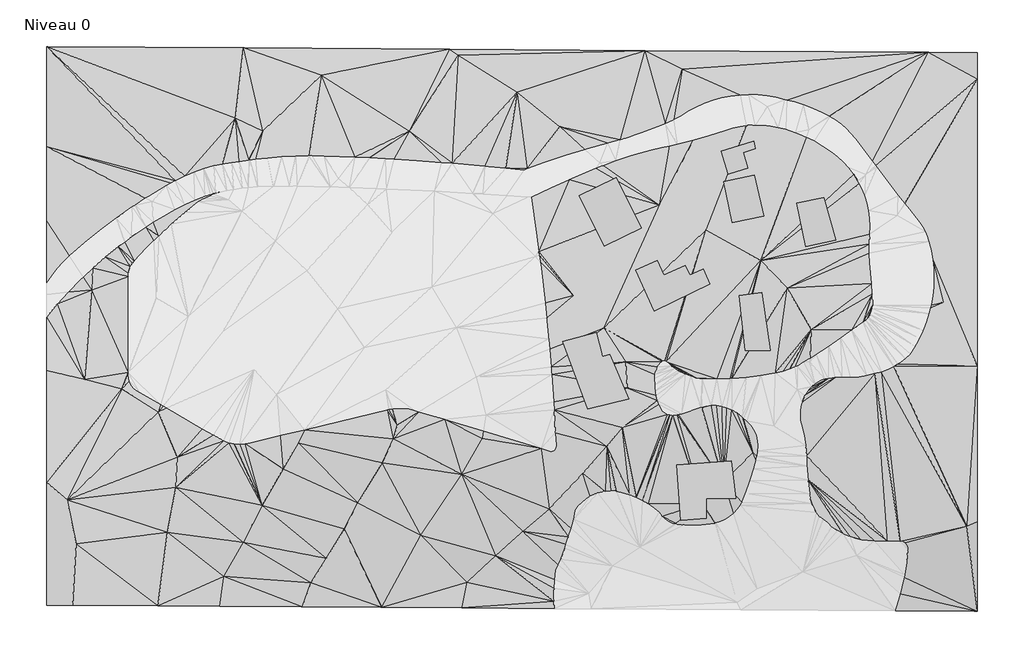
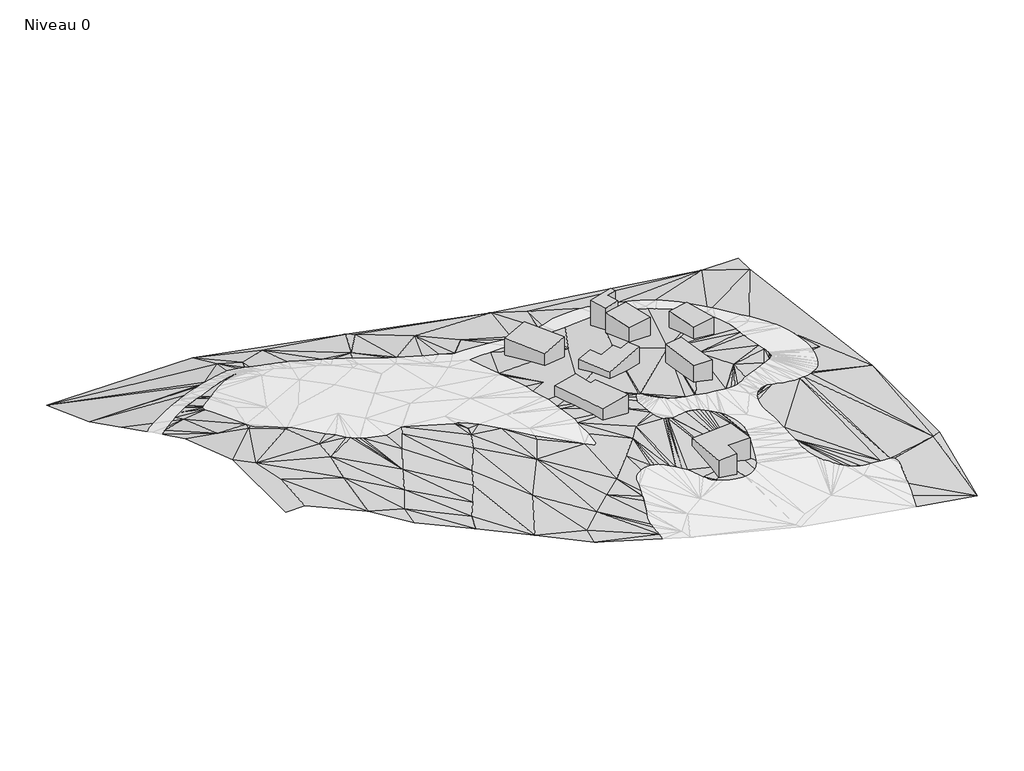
# One storey, part 2 of 2: 1 geographic element, 1 proxy.
"""IFC4 building model written with IfcOpenShell, lengths in millimetres."""

from ifc_helpers import new_model, si_unit, origin, place, context, project, spatial, triangles, transform, mapped, element, save
from components import geographic_element_8d537427

model = new_model("IFC4")

# Units and contexts
model_context = context("Model", 3, world=origin())
ifc_project = project(units=[si_unit("LENGTHUNIT", "METRE", prefix="MILLI")], contexts=[model_context])

# Site, building, storey
site = spatial("IfcSite", under=ifc_project)
building = spatial("IfcBuilding", under=site)
storey = spatial("IfcBuildingStorey", under=building, Name="Niveau 0", Elevation=260000.0)

# Proxy
placement = place(None, origin())
element("IfcBuildingElementProxy", 1, Name="Building Element Proxy", at=placement, inside=storey, context=model_context, shape_type="Tessellation", body=[
    triangles([(84495.4471436, -41924.2828491, 220000.0040039), (84495.4471436, -29941.2259094, 224999.9964844), (84495.4471436, -8994.7974792, 224999.9964844), (84495.4471436, 29442.6679688, 220000.0040039), (84495.4471436, 32966.7877441, 220000.0040039), (77888.3295044, 33010.9571411, 220000.0040039), (39956.0867065, 33264.5370117, 224999.9964844), (13748.1364105, 33439.7379456, 230000.0075684), (-13832.1801178, 33624.112738, 235000.0000488), (-40211.2804321, 33800.4577881, 235000.0000488), (-40211.2804321, 20362.7431274, 239999.9925293), (-40211.2804321, 10433.2166565, 245000.0036133), (-40211.2804321, 2064.1129623, 249239.3913574), (-39535.2379761, 3062.1017555, 248768.9084473), (-38792.4856384, 4011.4859573, 248326.4982422), (-37986.5022766, 4907.8138046, 247914.2257324), (-37144.4769287, 5724.1872299, 247544.3506348), (-37121.0690552, 5746.8823563, 247535.4023438), (-35108.6197998, 7504.0919586, 246860.8016602), (-33034.5812805, 9188.1664902, 246226.9240723), (-30901.6138, 10796.9502686, 245634.5695313), (-28712.4474243, 12328.382373, 245084.5379883), (-28338.5283875, 12570.5036407, 245000.0036133), (-26969.7026367, 13456.8541901, 244677.7535156), (-26469.8843079, 13780.5007141, 244547.2126465), (-24176.7963684, 15151.4461029, 244008.1199707), (-23564.2523621, 15483.7351227, 243881.9509277), (-22961.0054626, 15810.9791016, 243753.4378418), (-21715.0838379, 16411.6540649, 243526.4005371), (-20441.8801575, 16952.0966583, 243331.8263672), (-19144.300058, 17431.0743988, 243170.1804199), (-17825.3131256, 17847.4908417, 243041.8347656), (-16698.2598267, 18039.5058655, 243015.7526367), (-15425.8653992, 18256.2810059, 242660.6859375), (-14416.3642273, 18398.1572296, 242391.9767578), (-13153.5889801, 18575.6289551, 242110.5241699), (-13015.5311279, 18595.0312592, 242057.2250977), (-12201.9028839, 18685.3083069, 241752.220459), (-10596.3566986, 18863.4555725, 241322.1443848), (-8701.4345718, 19016.6787781, 240838.0064941), (-6802.7196533, 19112.0090057, 240376.8439453), (-5166.5776611, 19144.1593689, 239999.9925293), (-5000.266301, 19147.4266113, 239960.367041), (-4901.9804398, 19149.3578888, 239933.3547363), (-4674.7033241, 19146.8871094, 239873.7676758), (-3000.9862999, 19128.6917084, 239415.097998), (1096.9946686, 18990.2222534, 238327.2574219), (3084.390802, 18892.6247223, 237811.1214844), (5192.3789932, 18789.1042969, 237207.2327637), (6273.2542969, 18719.4422699, 236903.1955078), (9284.2088837, 18525.386673, 236002.0412109), (12679.9027771, 18263.0805908, 235000.0000488), (14116.079068, 18152.1408508, 234665.583252), (18521.9147919, 17766.6794952, 233651.3381836), (18943.9029877, 17729.7608185, 233568.2734863), (21308.3691284, 17498.636554, 233109.436377), (23767.1795105, 17258.2907593, 232561.6186523), (24182.2913818, 17411.5965179, 232422.5945801), (26582.8192749, 18298.1412415, 231647.2930664), (29426.9177673, 19257.4291992, 230751.7570313), (31876.1938477, 20006.6137024, 230000.0075684), (32297.1658264, 20135.3802612, 229875.9221191), (34949.6690369, 20864.8473633, 229113.9593262), (35191.2380127, 20931.2805176, 229062.3717773), (36655.5277039, 21343.0832886, 228747.1538086), (37374.4233582, 21545.2569946, 228573.0062988), (39531.3033325, 22246.0700317, 228027.4954102), (41658.4246582, 23032.5964417, 227466.1901367), (42704.3933716, 23470.9464294, 227177.5565918), (43729.4191772, 23956.2633179, 226881.0909668), (43828.9479858, 24009.0368408, 226850.9160645), (44731.3905762, 24487.547168, 226627.0599609), (45758.7883301, 25133.728656, 226346.3701172), (46830.8810303, 25702.6985779, 226080.3026367), (47941.8690308, 26191.3827026, 225830.3085938), (49085.7480469, 26597.1439819, 225597.7274414), (50256.3417114, 26917.7872009, 225383.8056152), (51447.3248291, 27151.5822327, 225189.7337402), (52652.2652344, 27297.2663635, 225016.5536133), (52784.7687744, 27303.470636, 224999.9964844), (53864.6516968, 27354.0489441, 224842.8339844), (55077.9357788, 27321.6253418, 224692.7408203), (56285.5550903, 27200.17229, 224569.8645996), (57480.99375, 26990.3432373, 224474.8378418), (58657.7963379, 26693.2753235, 224408.1814453), (58954.4433472, 26620.8704407, 224390.6383301), (59925.3794312, 26383.8942078, 224313.2291016), (61171.8800903, 25998.2456543, 224235.1501465), (62392.7125488, 25537.7458557, 224180.3441895), (63583.3887085, 25004.0900574, 224148.9972656), (64641.2729736, 24450.6401184, 224141.9093262), (64739.5227905, 24399.2409302, 224136.1236328), (65500.429834, 23919.9073975, 224108.925293), (66221.5672119, 23382.6006592, 224101.167627), (66898.5351929, 22790.6065613, 224112.9064453), (67527.1851929, 22147.5388367, 224144.0487305), (68103.6848877, 21457.3298035, 224194.4084473), (70419.7249146, 18418.7664368, 224454.4111816), (70883.822168, 17809.8896484, 224540.0803711), (71008.7819824, 17645.9438416, 224540.6012695), (73871.7700195, 13802.8249329, 224565.8648437), (74738.0008667, 12759.4909424, 224554.8887695), (75354.0562866, 12017.4850708, 224499.4875), (76762.8772705, 10173.6231995, 224391.7731445), (77152.7185913, 9587.9682495, 224371.7185547), (77488.4748413, 8969.7129639, 224369.169873), (77767.4299072, 8323.8390152, 224384.1643066), (77987.3420654, 7655.5513184, 224416.5530273), (78277.4731934, 6464.7873734, 224499.2456543), (78485.9813965, 5257.0564407, 224604.2066895), (78611.9178955, 4037.9445168, 224730.9152344), (78654.6966797, 2813.0919548, 224878.7945801), (78625.4798584, 1931.3460663, 224999.9964844), (78614.1038086, 1588.1651241, 225049.0539551), (78490.3439209, 368.8305757, 225244.6699219), (78287.4818848, -818.8306881, 225456.2477051), (78283.9844238, -839.2707922, 225456.9918457), (78183.1161621, -1258.285841, 225480.525293), (78002.9085571, -2006.882008, 225612.3125977), (77645.3489868, -3153.3857185, 225832.5410156), (77212.8684082, -4273.7783775, 226066.4802246), (76707.3550781, -5363.1697311, 226313.0884277), (76131.0088623, -6416.804837, 226571.3238281), (75486.3505371, -7430.0854294, 226840.0330078), (74811.884729, -8042.9945297, 227066.6982422), (74083.6408081, -8590.9192245, 227297.5678711), (73799.3000244, -8766.2056183, 227382.9952148), (73307.8509521, -9069.1661957, 227460.1998047), (72491.1752197, -9473.6380188, 227598.6657715), (71640.5945801, -9800.8692078, 227752.5912598), (70763.4062622, -10048.057608, 227920.6182129), (69689.8578369, -10305.1430786, 228130.9495605), (68600.0173828, -10480.7928223, 228353.2429688), (67500.0566162, -10574.0162018, 228586.289209), (66396.203064, -10584.283017, 228828.7302246), (65465.5854492, -10592.8697021, 229033.1270508), (64538.2374023, -10671.2556152, 229229.6173828), (64038.305127, -10766.5009644, 229330.0763672), (63555.3764648, -10927.0853485, 229420.0615723), (63097.9578735, -11150.1845215, 229497.9730957), (62674.0953735, -11431.8696533, 229562.4528809), (62291.2536255, -11767.1840698, 229612.3475098), (62173.1073486, -11902.246756, 229624.4956055), (61825.123938, -12300.0666595, 229691.765918), (61433.6873657, -12889.9980927, 229765.4916504), (61392.5921997, -12974.4266602, 229772.9330566), (61123.845813, -13526.5801666, 229673.7763184), (60995.4955078, -13913.7297913, 229601.0365723), (60901.0547607, -14198.5961243, 229581.2610352), (60769.2395508, -14894.200177, 229510.6979004), (60730.7302734, -15601.1360962, 229417.4756836), (60786.1966553, -16306.9430145, 229303.2500977), (60934.6713135, -16999.1833191, 229170.0117188), (61263.186145, -18331.389212, 228903.9628418), (61495.1998901, -19683.7450378, 228656.7593262), (61629.5079712, -21049.2686646, 228429.6662109), (61665.4174072, -22420.9128479, 228223.8741211), (61837.1929688, -24285.8664551, 227916.3580078), (62010.0893921, -26162.9821106, 227580.2668945), (62113.8132935, -26819.8582947, 227454.042041), (62301.5227661, -27457.8333069, 227314.0691895), (62570.069165, -28066.2147766, 227162.7295898), (62914.9550903, -28634.8103027, 227002.5533203), (63330.3994995, -29154.0925598, 226836.2006836), (63809.4400269, -29615.357428, 226666.4994141), (64344.0492554, -30010.8797974, 226496.2586426), (65008.9296021, -30573.059436, 226273.2396973), (65724.3789551, -31069.2872864, 226050.7230469), (66449.0463501, -31475.5066772, 225840.8381836), (66483.8814331, -31495.0380432, 225830.1783691), (67280.5211792, -31846.4328735, 225600.0156738), (67425.6379028, -31894.5113342, 225560.3901855), (68107.0335205, -32120.2696472, 225477.530127), (68955.8886841, -32314.0554932, 225392.3260254), (69819.3569092, -32426.0254028, 225323.1395508), (70689.5642578, -32455.1538574, 225270.6404297), (72420.3004761, -32456.4840088, 225177.8460938), (74150.2134888, -32509.9040039, 225074.3733398), (74433.9775635, -32561.5357361, 225048.5888672), (74693.9198364, -32686.497876, 225009.0005859), (74732.6709595, -32720.2260498, 224999.9964844), (74911.473999, -32875.8584106, 224913.9366211), (75071.0921631, -33116.0879333, 224793.9811523), (75161.3610718, -33390.02005, 224667.328418), (75175.8346069, -33678.0792114, 224543.0755371), (74993.0876221, -35357.3046204, 223848.2714355), (74728.1503052, -37025.5400024, 223167.2711426), (74661.5264648, -37343.4252502, 223039.2789551), (74381.6691284, -38678.7623474, 222539.7373535), (74149.3809814, -39567.3615967, 222212.9666016), (73954.4672974, -40312.9905029, 222053.3856445), (73470.7665894, -41850.5803711, 221737.0328613), (-40211.2804321, -9605.2009186, 255000.0071777), (-40211.2804321, -24614.4091919, 259999.9996582), (-40211.2804321, -41090.6128052, 259999.9996582), (-36722.425946, -41113.9369629, 259999.9996582), (-25298.3534912, -41190.3043945, 255000.0071777), (-17040.8051971, -41245.5056763, 249999.9960938), (-5941.7338348, -41319.7057983, 245000.0036133), (4723.6878342, -41391.003772, 239999.9925293), (15417.0112885, -41462.4877808, 235000.0000488), (27770.4212036, -41545.0734375, 231440.6638184), (27726.5634155, -40538.2697754, 231639.9074707), (27747.9853638, -39151.1079346, 231890.9619141), (27774.2349243, -38799.0108215, 231948.7072266), (27851.1255798, -37767.6179626, 231839.0953125), (27863.9736328, -37671.8749695, 231826.4449219), (28035.6305969, -36392.6135193, 232174.832959), (28346.8627625, -35688.1914001, 232307.0481445), (28673.784668, -34948.2528442, 232452.5834473), (29220.969873, -33467.0339539, 232772.7499512), (29375.0697693, -32953.8187683, 232893.2263184), (29675.0747131, -31954.6820801, 233077.4383301), (30070.5691772, -30802.1268494, 233273.3519531), (30076.0060547, -30786.2789795, 233276.3657227), (30395.7214233, -29593.0890198, 233532.7779785), (30632.7046326, -28380.7560425, 233821.467334), (31041.3657349, -27806.0353088, 233863.2880371), (31520.6109009, -27288.70177, 233865.2041992), (32062.4638733, -26837.3688538, 233827.1786133), (32585.3784668, -26505.5658508, 233759.2571777), (32657.9112488, -26459.5407532, 233758.4200195), (33297.039679, -26161.5101074, 233715.2598633), (33626.1847046, -26057.076947, 233676.7319824), (33969.2172546, -25948.2347534, 233635.8228516), (34663.2562866, -25823.2633118, 233521.4856445), (35367.6086426, -25788.6747253, 233374.9085449), (36070.5517822, -25845.0480286, 233198.5286133), (36110.0609985, -25852.6103577, 233187.1618652), (36986.7237671, -26020.4256958, 232908.7602539), (37883.6457642, -26276.67052, 232603.2719238), (38754.192627, -26611.7477417, 232285.6727051), (39591.4531494, -27022.9947327, 231958.4554688), (40388.7765747, -27507.1465759, 231624.2433105), (41139.8330566, -28060.3593201, 231285.6965332), (41838.6555176, -28678.2355591, 230945.4754395), (42291.1674316, -29156.5784546, 230706.0481934), (42479.7001099, -29355.8732666, 230597.7571289), (42808.4800415, -29673.0073975, 230418.9401367), (43188.8940308, -29925.8966125, 230249.8341797), (43608.561438, -30106.3111816, 230095.9272949), (43928.0117065, -30179.5346191, 230000.0075684), (44053.8133301, -30208.3700684, 229964.8283203), (44143.7613281, -30217.5090454, 229943.2296387), (44208.4876099, -30224.0830627, 229927.5654785), (45226.1324707, -30327.4627991, 229674.4274414), (46403.8140747, -30367.2208374, 229405.2159668), (47581.4956787, -30327.4627991, 229159.630957), (48753.8148193, -30208.3700684, 228938.788623), (49338.579126, -30092.5771362, 228845.3803711), (49432.1501587, -30074.0480347, 228825.9210938), (50089.3100464, -29858.8262878, 228712.2164062), (50715.6904175, -29565.8511475, 228627.5332031), (51302.1197388, -29199.4083984, 228573.0807129), (51815.4837524, -28784.6872009, 228550.7564941), (51840.0310913, -28764.8581787, 228554.1237305), (52321.5505371, -28268.5512634, 228653.9315918), (52739.6412964, -27717.75, 228778.3519043), (52895.245752, -27334.6478027, 228880.7270508), (53396.9779175, -26099.3859924, 229032.9224121), (53988.6813354, -24455.8886353, 229252.7601563), (54513.7888184, -22789.9182312, 229492.6524902), (54817.5423706, -21671.084198, 229664.9396484), (54951.2969971, -21178.4212463, 229789.8622559), (54971.4539063, -21104.17229, 229797.76875), (55094.3719849, -20423.0092163, 229882.6751953), (55125.9421509, -19731.5653748, 229987.4687988), (55119.7890381, -19661.192926, 230000.0075684), (55065.6202515, -19042.0365326, 230116.4283691), (54914.4573853, -18366.5800873, 230262.8194336), (54675.1231567, -17717.1104279, 230423.4049805), (54179.3348145, -17026.9618561, 230644.8984375), (53612.4252319, -16393.9365417, 230871.6938965), (53218.2167358, -16038.9907654, 231014.9595703), (52980.9242432, -15825.3293884, 231073.1699707), (52292.1058228, -15327.6923218, 231243.9130371), (51553.9136719, -14906.7622009, 231428.4971191), (50903.3022217, -14632.1766357, 231592.5243164), (50222.5251709, -14444.4822784, 231765.5556152), (49523.1213501, -14346.8614929, 231944.6888672), (48816.969104, -14340.9711548, 232126.8358887), (48116.035144, -14426.9112579, 232308.9457031), (47542.5631714, -14574.7720001, 232459.0202637), (47432.2164185, -14603.2237518, 232477.4377441), (44860.2617798, -15448.4407654, 232875.9436523), (44476.5782227, -15539.452652, 232941.3536133), (44264.9585815, -15589.6507507, 232998.5966309), (43655.0237183, -15637.6350311, 233167.0700684), (43298.575708, -15601.9941833, 233267.826709), (42956.5175171, -15495.5832367, 233367.1136719), (42642.7552734, -15322.7263458, 233460.8753906), (42370.041687, -15090.449826, 233545.3353516), (42149.4598022, -14808.1949615, 233617.0333008), (41840.9530518, -14245.3455963, 233723.3709961), (41813.6849487, -14176.962561, 233733.435498), (41603.2233765, -13649.1401276, 233867.3063965), (41439.8100952, -13028.4384796, 234007.0001953), (41435.8428955, -12999.3460693, 234012.7672852), (41353.1363159, -12392.4645081, 234025.5479004), (41294.6236084, -11544.4674316, 234028.6918945), (41245.5475342, -10695.8715546, 234029.3802246), (41259.6908569, -10250.252243, 234019.4459473), (41271.6110596, -10191.3093292, 234015.539209), (41348.0808105, -9813.2579865, 234048.1883789), (41508.2384766, -9397.1735001, 234069.117334), (41633.4215332, -9179.7431671, 234071.8520508), (41763.3484863, -8954.0755463, 234038.0866699), (42078.6176147, -8551.5553482, 233959.4124023), (42237.0312012, -8426.4949585, 233921.5914551), (42427.7032837, -8360.3042313, 233877.9848145), (42629.5328247, -8360.3042313, 233833.373584), (42820.2002563, -8426.4949585, 233792.7249023), (42978.6184937, -8551.5553482, 233760.5222168), (43446.8736328, -9004.4544479, 233667.2069824), (43971.1346558, -9391.145961, 233560.0321289), (44344.9304443, -9608.1164383, 233482.2880371), (44650.7396851, -9785.6213013, 233399.4837891), (45361.7102417, -10120.2811066, 233216.8158691), (46098.7908325, -10392.6551788, 233036.845459), (46856.5399292, -10600.7296875, 232860.9306152), (47629.3532227, -10742.9675171, 232690.3549805), (49593.3821777, -10774.3865295, 232298.5463379), (51379.8684814, -10719.5201111, 231952.6883789), (51556.7367554, -10714.0878845, 231913.472168), (53515.138147, -10562.2006439, 231477.3313477), (55464.3121948, -10319.0573456, 231041.1533203), (57400.0126465, -9985.1881897, 230605.9426758), (58400.9422485, -9743.1674973, 230379.333252), (59377.3245117, -9415.8874741, 230156.2584961), (60054.6227051, -9121.8257721, 230000.0075684), (60321.9133667, -9005.7764603, 230000.0075684), (61227.6906372, -8515.8790375, 230000.0075684), (61920.8808838, -8087.4871628, 230000.0075684), (62076.0295532, -7991.6063873, 230000.0075684), (62901.14198, -7481.6851868, 229770.5704102), (64543.5533569, -6398.8733734, 229314.7470703), (66153.5109009, -5268.3743546, 228868.7835938), (67662.0932373, -4197.3969933, 228451.0602539), (69190.753418, -3155.2765915, 228027.2349609), (69548.1874146, -2872.4075203, 227928.6363281), (69831.193396, -2562.5249817, 227851.6549805), (69855.5779541, -2535.8280647, 227841.8323242), (70104.9487793, -2154.2680698, 227726.7881836), (70289.8351685, -1737.6248966, 227623.5014648), (70405.4420654, -1296.7052982, 227534.6696777), (70448.7650024, -842.9459312, 227462.5624512), (70433.5891846, 597.6422633, 227272.6949707), (70346.1154541, 2035.6521996, 227101.654248), (70186.5624023, 3467.4575363, 226949.8495605), (70047.6685547, 4747.1925041, 226813.2253418), (69980.5749756, 6032.6928177, 226657.476709), (69980.8307739, 6099.7363998, 226648.3981934), (69985.4909546, 7319.9328506, 226472.4275391), (70062.3932373, 8604.8834885, 226269.5748047), (70066.2581177, 8691.8217865, 226256.1616699), (70109.7903442, 9671.3125809, 226075.9680176), (70064.6675171, 10737.8399231, 225900.4438477), (69927.36427, 11796.4543762, 225746.9462402), (69698.917749, 12839.2046814, 225616.5728027), (69381.0394775, 13858.2587585, 225510.365332), (68976.1153564, 14845.9600983, 225429.0679687), (68674.5105103, 15431.3301819, 225394.6886719), (68488.0335205, 15793.2476257, 225362.7650391), (68487.1870605, 15794.889386, 225362.5604004), (67917.9334351, 16697.9214752, 225263.254834), (67272.6239868, 17548.2707336, 225188.859375), (66556.1095825, 18339.5503418, 225139.9693359), (65773.7712891, 19065.8176392, 225116.9195801), (64931.4878174, 19721.6148193, 225119.8961426), (63792.957312, 20476.2292236, 225152.9731934), (62607.2994507, 21154.3878296, 225211.1649902), (61533.1603638, 21678.2791077, 225283.7931152), (61379.639502, 21753.1582581, 225286.1371582), (61077.5323608, 21876.6414185, 225296.3876953), (60115.2794678, 22269.9546204, 225328.3299316), (58819.6887817, 22702.5398438, 225394.3352051), (57811.0852295, 22960.9519775, 225464.3030273), (56785.5803833, 23140.8968079, 225555.0509766), (55749.2529419, 23241.3092834, 225666.0767578), (55091.0838135, 23254.134082, 225748.6577637), (54708.2746216, 23261.5917664, 225796.040918), (53668.8264404, 23201.6210083, 225943.752832), (53535.2206421, 23183.5104858, 225965.2026855), (52637.0894165, 23061.7574524, 226097.6597168), (51619.1887573, 22842.8289551, 226268.4027832), (50621.1799072, 22546.1377625, 226456.7075684), (48526.2008057, 21870.2441345, 226865.5384277), (46411.3578003, 21259.3349121, 227260.0445801), (44278.6647217, 20713.9914551, 227639.8539551), (43225.8731689, 20479.1499756, 227818.5965332), (42130.1586548, 20234.7346619, 228068.441748), (40698.8088135, 19912.0101746, 228395.6403809), (39279.793103, 19538.7608643, 228733.0709473), (37874.9021118, 19115.455307, 229080.2683594), (36042.1953735, 18498.1476379, 229549.1327637), (34333.1438782, 17866.6919952, 230000.0075684), (34228.1781921, 17827.9094788, 230030.3685059), (33387.2644043, 17489.1627136, 230281.199707), (32434.3760559, 17105.3082367, 230598.2222168), (29831.8674683, 15984.344101, 231481.1636719), (27250.543634, 14815.4247528, 232370.3559082), (24691.2858948, 13598.9524933, 233265.482666), (25399.9542664, 8869.1964249, 234210.8203125), (25736.375592, 6346.462619, 234724.9284668), (25798.7996887, 5878.3580521, 234838.5773438), (25917.9040466, 4985.2352417, 235000.0000488), (26032.1389343, 4128.6104942, 235181.6819824), (26586.2399963, -609.3132079, 236206.1775879), (26587.672467, -621.5677288, 236207.1821777), (26785.7417725, -2590.3197968, 236377.9996582), (27066.4106873, -5380.0989304, 236879.2713867), (27179.2642639, -6718.5683945, 237124.4471191), (27383.2983215, -9138.4712677, 237234.2450684), (27468.2280212, -10145.7423431, 237309.3474609), (27721.8730042, -13872.0334991, 237602.0737793), (27793.0198242, -14917.253421, 237479.718457), (27954.1913818, -18025.1730194, 237130.214209), (28040.7023804, -19693.3886353, 236732.4152344), (28030.7750793, -19983.1197876, 236669.5539551), (27959.0282959, -20171.5966553, 236644.9787109), (27829.6129395, -20326.2686096, 236642.4486328), (27656.7467468, -20430.1366882, 236662.2241699), (27459.4239075, -20471.7899597, 236702.1287109), (27259.3244934, -20446.6542847, 236757.8090332), (26068.0716248, -20089.262146, 237136.0743164), (18319.1585632, -17764.4854431, 239999.9925293), (13152.6576416, -16214.4661011, 242319.8881348), (9679.1074539, -15172.354129, 243634.1334961), (9060.691713, -14986.8212677, 243853.0224609), (8352.9477036, -14816.116571, 244109.0068359), (7631.1876892, -14720.7084412, 244380.3577148), (6903.3978104, -14701.6503021, 244664.0985352), (6177.6328079, -14759.1537689, 244957.0666992), (6074.8745453, -14778.3119019, 245000.0036133), (5638.3721191, -14859.6894928, 245000.0036133), (5461.9253311, -14892.5839966, 245077.7291016), (-5621.094104, -17568.8473846, 249999.9960938), (-7118.5149124, -17930.4369415, 249999.9960938), (-8883.8705292, -18356.7248749, 249999.9960938), (-12904.7332397, -19327.6586334, 251458.8837891), (-13623.5033203, -19471.6324036, 251718.7935059), (-14355.0528534, -19518.471405, 251980.4147461), (-15086.3151947, -19467.3349915, 252239.0594238), (-15804.2260254, -19319.1417114, 252490.0952637), (-16495.964035, -19076.5355896, 252729.0574219), (-17908.9545319, -18260.3993591, 253207.7444824), (-19336.6929657, -17435.7450439, 253368.2742188), (-24122.5485168, -14671.4591217, 254571.5310059), (-24608.6421021, -14390.6948639, 254643.8428711), (-24924.5367737, -14208.2350708, 254628.1042969), (-27753.1013306, -12574.4696777, 254666.5391602), (-28181.9658508, -12331.8309998, 254674.036377), (-28556.6522827, -12011.8191376, 254645.1637207), (-28863.3916992, -11626.1926758, 254581.0001953), (-29090.9173462, -11189.1228424, 254483.9084473), (-29132.0566956, -11050.2324829, 254446.7200195), (-29230.8646179, -10716.6691223, 254353.6466309), (-29278.0919678, -10226.1920837, 254197.823584), (-29278.0919678, -9903.4478302, 254089.2720703), (-29278.0919678, 563.91111, 249999.9960938), (-29278.0919678, 2973.8074356, 249060.1836914), (-29246.5125, 3426.6489807, 248882.0364258), (-29148.304541, 3869.8393707, 248704.4100586), (-28985.6260986, 4293.6303635, 248531.1741211), (-28762.0560242, 4688.6989815, 248366.179541), (-28482.5149475, 5046.3559296, 248213.0167969), (-26876.6083191, 6752.2855225, 247469.1924316), (-25840.9529297, 7777.7717651, 247018.6152832), (-25211.7797058, 8400.7651337, 246808.5257813), (-23490.0871216, 9989.7600037, 246278.3441895), (-21713.6513672, 11517.309787, 245774.5237793), (-19884.665332, 12981.5308777, 245297.6784668), (-19182.0291504, 13406.0165955, 245167.7515137), (-18446.6565948, 13770.8664185, 245062.4184082), (-17881.3899353, 13995.1097076, 245003.1476074), (-17869.5360077, 13999.8117462, 245000.0036133), (-17867.1733612, 14000.7488983, 245000.0036133), (-17683.6008453, 14073.5735229, 244936.9749023), (-17040.735434, 14268.7546326, 244744.4285156), (-17543.9802979, 14153.784906, 244877.3878418), (-17823.4399841, 14071.3527283, 244959.9502441), (-17860.0191467, 14060.5638519, 244972.1355469), (-18181.3518585, 13965.7801025, 245000.0036133), (-18969.0270355, 13733.4419586, 245051.6655762), (-20365.1732117, 13225.2857666, 245180.4205078), (-21727.0133423, 12631.2848145, 245343.9640137), (-23049.2744934, 11953.7389618, 245541.6449707), (-25001.0576843, 10825.8461792, 245882.7776367), (-25943.0862305, 10231.704538, 246066.6175781), (-26907.7436279, 9623.288768, 246351.0839355), (-28766.47901, 8347.8666183, 246939.3829102), (-29755.0465759, 7611.7034134, 247274.8229004), (-30574.4802795, 7001.4894974, 247498.6045898), (-32329.0382996, 5586.1735611, 248030.3116699), (-34027.5276489, 4104.0375755, 248599.2257813), (-35304.7682922, 2899.3422134, 249070.6388672), (-35667.4066223, 2557.3005913, 249225.1038574), (-37246.2172302, 948.2790367, 249958.3242188), (-37328.5842957, 857.5690212, 249999.9960938), (-38761.5991516, -720.6182962, 250703.953125), (-40211.2804321, -2446.8925049, 251479.9057617), (83084.6495361, -30548.7097595, 224999.9964844), (79898.1370605, -486.7108077, 224999.9964844), (44982.4682739, 30760.7782104, 224999.9964844), (44050.1437866, -30096.8001343, 230000.0075684), (47644.1988281, -27452.8429138, 230000.0075684), (50523.2323975, -24662.6318298, 230000.0075684), (54364.9095337, -20598.8938293, 230000.0075684), (62247.0563232, -4126.3821419, 230000.0075684), (58984.5949951, 1427.5678047, 230000.0075684), (55489.1013794, 5078.4161819, 230000.0075684), (48074.7725464, 9172.0267776, 230000.0075684), (41866.3887085, 12521.8740509, 230000.0075684), (28511.6643311, 23062.7271606, 230000.0075684), (22835.3712708, 27651.5331116, 230000.0075684), (14951.0932159, 32622.9017578, 230000.0075684), (16089.0842194, -38040.161792, 235000.0000488), (19951.0356995, -34446.8694946, 235000.0000488), (23594.7016663, -31206.1882324, 235000.0000488), (27159.2585083, -28166.7411987, 235000.0000488), (31593.7855042, -23438.5391052, 235000.0000488), (34853.6028076, -19826.308429, 235000.0000488), (36879.974469, -17241.9487335, 235000.0000488), (37555.7215942, -11998.3420532, 235000.0000488), (37364.7472046, -8505.3628189, 235000.0000488), (34430.6216492, -3919.7005714, 235000.0000488), (30370.2160034, 421.6148901, 235000.0000488), (9949.8880188, -31722.6660095, 239999.9925293), (15398.9728546, -23549.0370117, 239999.9925293), (18168.1794067, -18725.2570312, 239999.9925293), (-11242.8114258, 22428.4007629, 239999.9925293), (-14907.413324, 24173.0268311, 239999.9925293), (-4793.3896843, -38067.6345337, 245000.0036133), (-2733.2439217, -34825.437085, 245000.0036133), (-335.3695004, -30874.0108337, 245000.0036133), (1488.3659832, -27395.4045593, 245000.0036133), (4730.5624146, -22025.5160522, 245000.0036133), (6250.3417419, -18817.0932861, 245000.0036133), (6790.7081772, -16925.8110535, 245000.0036133), (-17876.5681366, 14003.8835907, 245000.0036133), (-16477.5709717, -37247.6357483, 249999.9960938), (-13857.9901703, -32676.2101318, 249999.9960938), (-11341.1379822, -27745.2343689, 249999.9960938), (-8516.1005356, -22814.258606, 249999.9960938), (-6512.8914139, -19321.4845917, 249999.9960938), (-34184.573877, 1179.3004732, 249999.9960938), (-24017.1316956, -31316.0954773, 255000.0071777), (-22890.8050964, -25296.0815369, 255000.0071777), (-22696.6122986, -21295.6838562, 255000.0071777), (-25221.1349487, -15159.1514465, 255000.0071777), (-30114.8246155, -12129.7235687, 255000.0071777), (-35125.030426, -10848.0424988, 255000.0071777), (-36247.8758423, -32901.7847351, 259999.9996582), (-37470.6035339, -26991.9338379, 259999.9996582), (8378.1641876, 22462.2173035, 235000.0000488), (-3435.6309906, 29963.978009, 235000.0000488)], [[196, 197, 553], [195, 553, 194], [553, 195, 196], [197, 547, 553], [541, 547, 197], [542, 541, 533], [547, 542, 548], [542, 547, 541], [541, 198, 199], [541, 197, 198], [553, 547, 554], [554, 548, 549], [548, 554, 547], [549, 550, 554], [554, 551, 194], [548, 445, 549], [554, 194, 553], [442, 443, 543], [444, 445, 548], [543, 443, 444], [548, 543, 444], [442, 543, 441], [446, 549, 445], [542, 543, 548], [199, 200, 533], [534, 543, 542], [534, 533, 200], [534, 200, 535], [534, 542, 533], [517, 528, 200], [518, 517, 203], [528, 518, 529], [518, 528, 517], [518, 208, 519], [517, 200, 201], [535, 200, 528], [544, 440, 441], [545, 544, 536], [544, 439, 440], [544, 543, 535], [544, 441, 543], [537, 528, 529], [529, 518, 519], [528, 537, 536], [536, 535, 528], [545, 537, 437], [536, 537, 545], [529, 425, 530], [535, 536, 544], [543, 534, 535], [538, 537, 529], [203, 517, 201], [533, 541, 199], [545, 439, 544], [451, 550, 450], [550, 451, 551], [551, 452, 453], [452, 551, 451], [551, 552, 194], [448, 550, 549], [449, 450, 550], [448, 449, 550], [549, 447, 448], [551, 459, 552], [551, 458, 459], [459, 546, 552], [552, 501, 193], [193, 194, 552], [455, 551, 454], [457, 458, 551], [551, 456, 457], [456, 551, 455], [551, 453, 454], [554, 550, 551], [438, 545, 437], [545, 438, 439], [529, 427, 538], [427, 529, 530], [539, 538, 428], [427, 530, 426], [436, 538, 539], [426, 530, 425], [437, 538, 436], [437, 537, 538], [538, 427, 428], [436, 539, 435], [434, 539, 433], [539, 434, 435], [431, 539, 430], [433, 539, 432], [431, 432, 539], [539, 429, 430], [428, 429, 539], [446, 447, 549], [520, 529, 519], [204, 518, 203], [205, 206, 518], [205, 518, 204], [207, 208, 518], [210, 519, 209], [208, 209, 519], [206, 207, 518], [212, 519, 211], [519, 213, 520], [519, 212, 213], [519, 210, 211], [520, 214, 215], [217, 520, 216], [520, 215, 216], [214, 520, 213], [520, 217, 218], [529, 520, 425], [520, 218, 521], [521, 219, 220], [521, 218, 219], [506, 234, 235], [289, 232, 233], [290, 523, 232], [233, 234, 288], [521, 221, 222], [224, 225, 521], [223, 224, 521], [230, 231, 522], [522, 228, 229], [229, 230, 522], [225, 226, 521], [232, 523, 231], [521, 220, 221], [521, 222, 223], [424, 520, 423], [423, 521, 422], [425, 520, 424], [420, 521, 419], [520, 521, 423], [420, 421, 521], [226, 522, 521], [521, 421, 422], [227, 522, 226], [524, 415, 416], [525, 413, 414], [414, 415, 524], [419, 522, 418], [522, 419, 521], [418, 522, 417], [522, 523, 416], [522, 416, 417], [227, 228, 522], [416, 523, 524], [523, 522, 231], [298, 299, 524], [524, 300, 301], [300, 524, 299], [298, 524, 297], [295, 523, 294], [296, 297, 524], [524, 523, 296], [523, 295, 296], [523, 293, 294], [302, 525, 524], [525, 303, 304], [303, 525, 302], [302, 524, 301], [304, 305, 525], [307, 308, 525], [306, 307, 525], [305, 306, 525], [525, 308, 309], [524, 525, 414], [523, 292, 293], [235, 236, 506], [203, 201, 202], [525, 526, 413], [499, 500, 546], [501, 552, 500], [498, 546, 497], [546, 498, 499], [496, 497, 546], [546, 495, 496], [546, 500, 552], [14, 15, 12], [12, 16, 17], [16, 12, 15], [14, 12, 13], [19, 20, 12], [18, 19, 12], [17, 18, 12], [21, 12, 20], [495, 546, 461], [461, 494, 495], [494, 462, 463], [462, 494, 461], [461, 546, 460], [463, 464, 494], [493, 464, 465], [494, 464, 493], [493, 465, 466], [467, 491, 492], [467, 490, 491], [493, 466, 492], [469, 490, 468], [488, 489, 469], [489, 490, 469], [488, 469, 470], [468, 490, 467], [466, 467, 492], [460, 546, 459], [22, 23, 11], [21, 22, 11], [487, 471, 486], [487, 488, 470], [485, 486, 471], [471, 472, 485], [470, 471, 487], [24, 25, 11], [28, 10, 11], [11, 25, 26], [24, 11, 23], [26, 27, 11], [10, 29, 532], [28, 29, 10], [27, 28, 11], [30, 532, 29], [21, 11, 12], [473, 484, 485], [484, 474, 483], [474, 484, 473], [482, 483, 475], [475, 483, 474], [540, 476, 477], [476, 540, 475], [540, 477, 482], [482, 475, 540], [482, 477, 481], [532, 30, 31], [480, 478, 479], [532, 32, 33], [480, 481, 478], [477, 478, 481], [532, 31, 32], [485, 472, 473], [532, 33, 34], [515, 55, 56], [58, 56, 57], [405, 406, 527], [403, 404, 400], [405, 527, 404], [401, 402, 403], [35, 36, 532], [37, 38, 531], [36, 37, 531], [515, 54, 55], [53, 555, 52], [555, 51, 52], [53, 54, 515], [58, 515, 56], [409, 410, 527], [407, 408, 527], [409, 527, 408], [413, 526, 412], [526, 527, 410], [526, 411, 412], [513, 527, 526], [526, 410, 411], [404, 527, 513], [526, 512, 513], [399, 400, 513], [403, 400, 401], [398, 513, 397], [513, 398, 399], [513, 396, 397], [396, 513, 395], [513, 394, 395], [513, 400, 404], [58, 59, 514], [513, 390, 391], [407, 527, 406], [39, 40, 531], [40, 41, 531], [49, 50, 555], [47, 48, 555], [49, 555, 48], [46, 47, 556], [9, 531, 556], [532, 36, 531], [532, 9, 10], [9, 532, 531], [531, 42, 556], [531, 41, 42], [45, 556, 44], [45, 46, 556], [556, 555, 8], [44, 556, 43], [47, 555, 556], [43, 556, 42], [9, 556, 8], [51, 555, 50], [531, 38, 39], [60, 61, 514], [62, 63, 514], [61, 62, 514], [394, 513, 393], [393, 513, 392], [513, 391, 392], [514, 59, 60], [63, 64, 514], [515, 514, 7], [555, 53, 516], [7, 8, 516], [555, 516, 8], [516, 515, 7], [514, 515, 58], [65, 66, 7], [67, 68, 7], [69, 7, 68], [67, 7, 66], [65, 7, 514], [514, 64, 65], [515, 516, 53], [310, 526, 309], [35, 532, 34], [309, 526, 525], [505, 243, 244], [505, 242, 243], [505, 244, 245], [506, 247, 248], [245, 246, 505], [506, 246, 247], [506, 248, 249], [238, 239, 505], [505, 237, 238], [505, 239, 240], [505, 506, 237], [241, 242, 505], [506, 250, 251], [506, 505, 246], [506, 251, 252], [250, 506, 249], [505, 240, 241], [234, 506, 288], [506, 253, 254], [254, 255, 506], [255, 507, 506], [507, 256, 257], [258, 259, 257], [256, 507, 255], [507, 257, 259], [507, 260, 261], [260, 507, 259], [507, 262, 508], [262, 507, 261], [287, 506, 507], [264, 508, 263], [265, 266, 508], [508, 264, 265], [263, 508, 262], [268, 508, 267], [253, 506, 252], [277, 507, 508], [232, 289, 290], [292, 523, 291], [291, 523, 290], [288, 506, 287], [286, 507, 285], [507, 286, 287], [288, 289, 233], [316, 318, 313], [316, 317, 318], [319, 313, 318], [283, 284, 507], [320, 313, 319], [282, 283, 281], [322, 320, 321], [284, 285, 507], [273, 274, 508], [276, 508, 275], [277, 508, 276], [270, 508, 269], [508, 271, 272], [508, 270, 271], [272, 273, 508], [277, 278, 507], [281, 283, 507], [280, 281, 507], [507, 279, 280], [511, 323, 324], [323, 511, 322], [279, 507, 278], [313, 320, 322], [275, 508, 274], [268, 269, 508], [325, 510, 324], [508, 266, 267], [236, 237, 506], [172, 169, 171], [169, 170, 171], [172, 173, 174], [172, 158, 169], [158, 174, 175], [172, 174, 158], [158, 175, 176], [159, 162, 163], [159, 161, 162], [159, 163, 164], [167, 168, 158], [169, 158, 168], [167, 158, 166], [165, 159, 164], [159, 165, 166], [158, 176, 177], [191, 192, 1], [1, 189, 190], [190, 191, 1], [188, 1, 187], [1, 188, 189], [186, 187, 1], [502, 185, 186], [186, 1, 502], [180, 181, 502], [178, 179, 502], [180, 502, 179], [183, 184, 502], [178, 502, 130], [502, 182, 183], [2, 502, 1], [502, 181, 182], [184, 185, 502], [177, 178, 131], [129, 130, 502], [151, 136, 150], [152, 136, 151], [132, 155, 156], [135, 153, 154], [154, 155, 134], [136, 152, 153], [326, 327, 510], [510, 325, 326], [149, 150, 148], [148, 146, 147], [150, 136, 148], [136, 146, 148], [146, 144, 145], [157, 177, 156], [159, 166, 158], [144, 137, 143], [158, 177, 157], [153, 135, 136], [142, 143, 141], [143, 140, 141], [140, 143, 139], [139, 143, 138], [159, 160, 161], [138, 143, 137], [144, 146, 137], [137, 146, 136], [134, 155, 133], [132, 156, 131], [177, 131, 156], [155, 132, 133], [134, 135, 154], [131, 178, 130], [328, 509, 327], [502, 2, 3], [511, 312, 313], [526, 311, 512], [311, 312, 512], [510, 511, 324], [329, 509, 328], [315, 313, 314], [313, 315, 316], [368, 511, 367], [322, 511, 313], [513, 389, 390], [512, 388, 513], [389, 513, 388], [512, 387, 388], [512, 386, 387], [512, 511, 378], [385, 386, 512], [385, 512, 384], [376, 377, 511], [376, 511, 375], [512, 312, 511], [327, 509, 510], [509, 330, 331], [509, 331, 332], [333, 509, 332], [509, 334, 335], [335, 336, 509], [334, 509, 333], [509, 336, 337], [372, 373, 374], [374, 511, 372], [374, 375, 511], [368, 369, 511], [353, 511, 510], [370, 371, 511], [511, 369, 370], [371, 372, 511], [510, 509, 348], [509, 329, 330], [504, 69, 70], [71, 504, 70], [72, 504, 71], [382, 383, 381], [384, 512, 383], [73, 504, 72], [74, 75, 504], [504, 76, 77], [76, 504, 75], [74, 504, 73], [77, 78, 504], [80, 81, 504], [79, 80, 504], [78, 79, 504], [504, 81, 82], [69, 504, 7], [379, 380, 512], [512, 378, 379], [381, 383, 512], [92, 93, 6], [90, 91, 6], [94, 6, 93], [381, 512, 380], [6, 84, 85], [82, 83, 504], [83, 6, 504], [89, 90, 6], [87, 88, 6], [6, 85, 86], [89, 6, 88], [83, 84, 6], [91, 92, 6], [377, 378, 511], [6, 86, 87], [337, 338, 509], [310, 311, 526], [347, 338, 339], [340, 341, 339], [346, 339, 341], [129, 502, 128], [126, 127, 3], [128, 3, 127], [348, 349, 510], [510, 349, 350], [344, 341, 343], [341, 342, 343], [345, 346, 341], [509, 347, 348], [346, 347, 339], [345, 341, 344], [350, 351, 510], [124, 125, 3], [122, 123, 3], [124, 3, 123], [121, 3, 120], [3, 121, 122], [503, 119, 120], [503, 118, 119], [503, 120, 3], [125, 126, 3], [115, 116, 503], [116, 117, 503], [114, 503, 113], [503, 114, 115], [112, 113, 503], [111, 112, 503], [503, 110, 111], [117, 118, 503], [110, 503, 3], [3, 4, 110], [502, 3, 128], [359, 360, 511], [361, 511, 360], [358, 359, 511], [352, 353, 510], [354, 355, 511], [353, 354, 511], [362, 511, 361], [355, 356, 511], [367, 511, 366], [95, 96, 6], [362, 363, 365], [364, 365, 363], [365, 366, 511], [362, 365, 511], [96, 97, 6], [510, 351, 352], [356, 357, 511], [358, 511, 357], [108, 109, 4], [106, 107, 4], [105, 106, 4], [108, 4, 107], [104, 105, 4], [100, 101, 4], [4, 98, 99], [99, 100, 4], [102, 103, 4], [6, 4, 5], [6, 98, 4], [103, 104, 4], [4, 101, 102], [98, 6, 97], [109, 110, 4], [95, 6, 94], [509, 338, 347], [504, 6, 7]], closed=False),
])

# Geographic element
geographic_element_shape = geographic_element_8d537427(model_context)
element("IfcGeographicElement", 2, ObjectType="Village buildings : Village buildings", at=placement, inside=storey, context=model_context, shape_type="MappedRepresentation", body=[
    mapped(geographic_element_shape, transform((0.0, 0.0, 0.0), x_axis=(1.0, 0.0, 0.0), y_axis=(0.0, 1.0, 0.0), z_axis=(0.0, 0.0, 1.0))),
])

save(model, "model.ifc")
